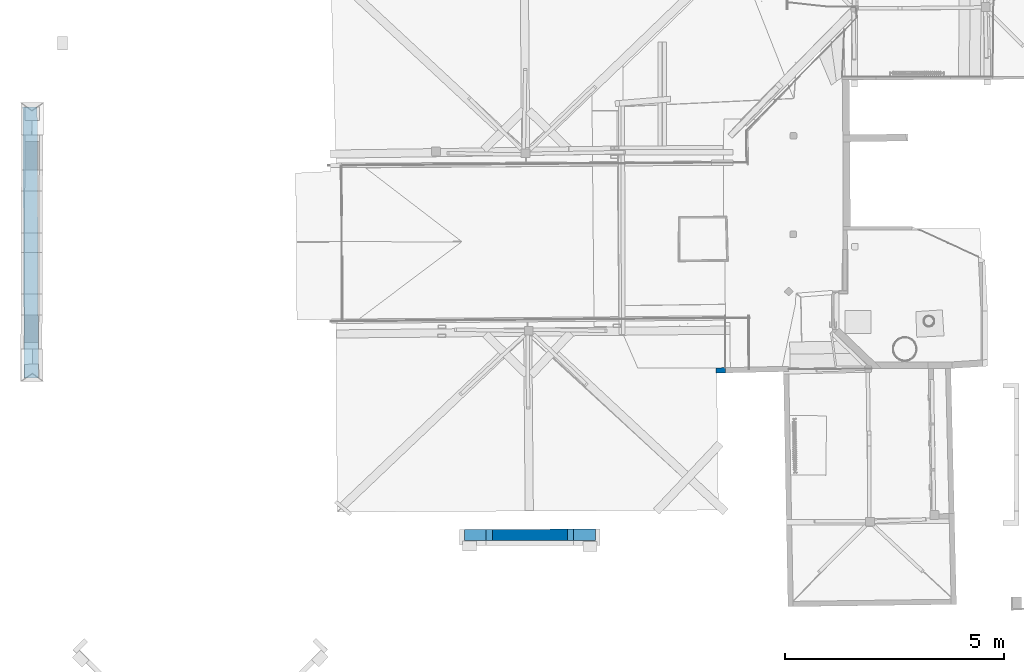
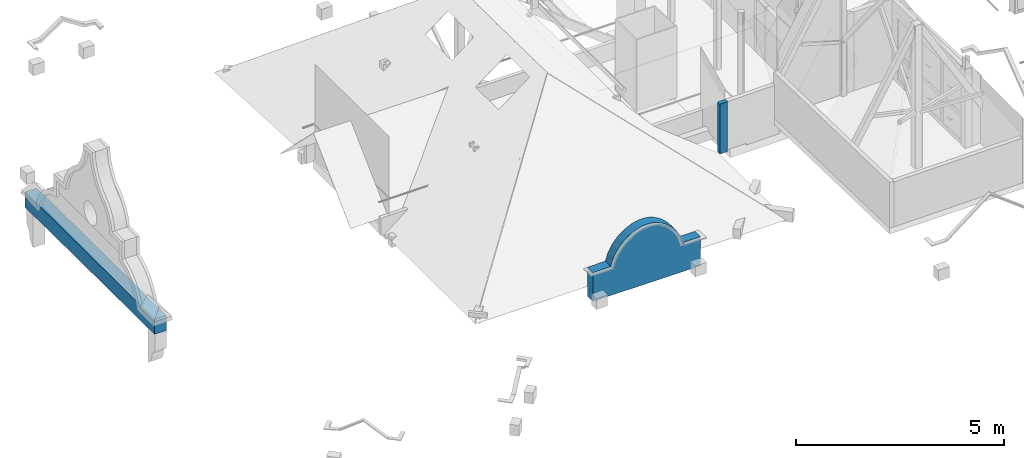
# One storey, part 7 of 39: 3 walls.
"""IFC2X3 building model written with IfcOpenShell, lengths in centimetres."""

from ifc_helpers import new_model, entity, si_unit, converted_unit, direction, frame, origin, origin_with_axes, origin_2d_with_axis, place, context, subcontext, project, spatial, polyline, rectangle, extrude, clip, bounded_halfspace, material, layer, layer_set, layer_usage, type_object, element, save


model = new_model("IFC2X3")

# Units and contexts
model_context = context("Model", 3, precision=0.0001, world=origin(), true_north=direction((0.225632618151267, 0.974212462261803, 0.0)))
body_context = subcontext(model_context, "Body", "Model", "MODEL_VIEW")
ifc_project = project(units=[si_unit("LENGTHUNIT", "METRE", prefix="CENTI"), si_unit("AREAUNIT", "SQUARE_METRE", prefix="CENTI"), si_unit("VOLUMEUNIT", "CUBIC_METRE", prefix="CENTI"), converted_unit("PLANEANGLEUNIT", "DEGREE", entity("IfcRatioMeasure", 0.0174532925), si_unit("PLANEANGLEUNIT", "RADIAN"), dimensions=[0, 0, 0, 0, 0, 0, 0])], contexts=[model_context])

# Site, building, storey
site_placement = place(None, origin_with_axes())
site = spatial("IfcSite", under=ifc_project, at=site_placement, Name="Default Site", CompositionType="ELEMENT")
building_placement = place(site_placement, origin_with_axes())
building = spatial("IfcBuilding", under=site, at=building_placement, Name="Default Building", CompositionType="ELEMENT")
storey_placement = place(building_placement, frame((0.0, 0.0, 1088.91037418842), z_axis=(0.0, 0.0, 1.0), x_axis=(1.0, 0.0, 0.0)))
storey = spatial("IfcBuildingStorey", under=building, at=storey_placement, Name="Mezzanine", CompositionType="ELEMENT", Elevation=1088.91037418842)

# Walls
ifc_material = material(Name="<aucun>")
ifc_layer_1 = layer(ifc_material, 26.0)
ifc_layer_set_1 = layer_set([ifc_layer_1], Name="default")
ifc_layer_usage_1 = layer_usage(ifc_layer_set_1, "AXIS2", "POSITIVE", -13.0)
wall_type_1 = type_object("IfcWallType", Name="default 260", PredefinedType="NOTDEFINED", material=ifc_layer_set_1)
wall_1_placement = place(storey_placement, frame((-356.975149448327, -732.422041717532, 1.59872115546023e-11), z_axis=(0.0, 0.0, 1.0), x_axis=(0.999999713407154, 0.000757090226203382, 0.0)))
solid_1 = clip(clip(clip(clip(clip(clip(clip(clip(extrude(rectangle(XDim=298.714882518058, YDim=25.9999999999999, at=origin_2d_with_axis()), frame((149.357441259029, -1.77635683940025e-13, 0.0), z_axis=(0.0, 0.0, 1.0), x_axis=(1.0, -1.35763796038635e-15, 0.0)), (0.0, 0.0, 1.0), 174.55720395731), bounded_halfspace(frame((49.5125697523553, 2.4247547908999, 85.4772075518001), z_axis=(0.01343457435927, -1.39015047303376e-17, -0.999909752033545), x_axis=(0.999899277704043, -0.00457716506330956, 0.0134344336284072)), True, frame((49.5125697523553, 2.4247547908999, 85.4772075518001), z_axis=(0.0, 0.0, 1.0), x_axis=(1.0, 0.0, 0.0)), polyline([(-49.5125697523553, 0.226650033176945), (4.44089209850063e-14, -8.88178419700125e-14), (-4.44089209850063e-14, 10.5752452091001), (-49.5125697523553, 10.5752452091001), (-49.5125697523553, 0.226650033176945)]))), bounded_halfspace(frame((49.5125697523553, -13.0, 85.4772075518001), z_axis=(0.01343457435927, -1.39015047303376e-17, -0.999909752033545), x_axis=(0.999909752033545, -1.03541307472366e-15, 0.0134345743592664)), True, frame((49.5125697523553, -13.0, 85.4772075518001), z_axis=(0.0, 0.0, 1.0), x_axis=(1.0, 0.0, 0.0)), polyline([(-49.5125697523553, 0.0), (0.0, 0.0), (-4.44089209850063e-14, 0.424597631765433), (-49.5125697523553, 0.651247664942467), (-49.5125697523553, 0.0)]))), bounded_halfspace(frame((49.5125697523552, -12.5754023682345, 85.4772075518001), z_axis=(0.01343457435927, -1.39015047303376e-17, -0.999909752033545), x_axis=(0.999899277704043, -0.00457716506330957, 0.0134344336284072)), True, frame((49.5125697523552, -12.5754023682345, 85.4772075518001), z_axis=(0.0, 0.0, 1.0), x_axis=(1.0, 0.0, 0.0)), polyline([(-49.5125697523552, 0.226650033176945), (4.44089209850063e-14, -8.88178419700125e-14), (8.88178419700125e-14, 15.0001571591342), (-49.5125697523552, 15.2268071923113), (-49.5125697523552, 0.226650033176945)]))), bounded_halfspace(frame((298.714882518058, -13.0000000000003, 86.1125640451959), z_axis=(0.0138037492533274, -1.46401174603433e-17, -0.99990472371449), x_axis=(0.999904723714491, -2.12980674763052e-15, 0.0138037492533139)), True, frame((298.714882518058, -13.0000000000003, 86.1125640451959), z_axis=(0.0, 0.0, 1.0), x_axis=(1.0, 0.0, 0.0)), polyline([(-49.5949635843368, 14.5110269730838), (-8.70009870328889, 14.3238255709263), (-8.76566782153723, 0.0), (8.88178419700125e-14, 0.0), (1.33226762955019e-13, 25.9999999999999), (-49.5949635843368, 26.0), (-49.5949635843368, 14.5110269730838)]))), bounded_halfspace(frame((56.4135383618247, 2.3931647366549, 107.470845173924), z_axis=(0.954134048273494, -5.29838759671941e-15, -0.299379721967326), x_axis=(0.29937944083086, -0.00137044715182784, 0.954133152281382)), True, frame((56.4135383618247, 2.3931647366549, 107.470845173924), z_axis=(0.0, 0.0, 1.0), x_axis=(1.0, 0.0, 0.0)), polyline([(-6.90096860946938, 0.0315900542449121), (4.44089209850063e-14, 0.0), (8.88178419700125e-14, 10.606835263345), (-6.90096860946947, 10.6068352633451), (-6.90096860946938, 0.0315900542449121)]))), bounded_halfspace(frame((67.5773140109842, 13.0, 127.637986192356), z_axis=(0.874896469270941, 2.24484059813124e-15, -0.484309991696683), x_axis=(-2.06779038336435e-15, -1.0, -1.67472841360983e-14)), True, frame((67.5773140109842, 13.0, 127.637986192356), z_axis=(0.0, 0.0, 1.0), x_axis=(1.0, 0.0, 0.0)), polyline([(-11.1637756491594, -10.6068352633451), (4.44089209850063e-14, -10.6579388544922), (4.44089209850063e-14, 8.88178419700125e-14), (-11.1637756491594, -8.88178419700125e-14), (-11.1637756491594, -10.6068352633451)]))), bounded_halfspace(frame((82.5520116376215, 12.9999999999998, 145.162309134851), z_axis=(0.760245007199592, -5.14887611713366e-16, -0.64963645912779), x_axis=(-0.649636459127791, 4.29474164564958e-15, -0.760245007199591)), True, frame((82.5520116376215, 12.9999999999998, 145.162309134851), z_axis=(0.0, 0.0, 1.0), x_axis=(1.0, 0.0, 0.0)), polyline([(-14.9746976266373, -10.657938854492), (4.44089209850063e-14, -10.7264874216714), (0.0, 0.0), (-14.9746976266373, 2.66453525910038e-13), (-14.9746976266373, -10.657938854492)]))), bounded_halfspace(frame((100.731488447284, 2.19029373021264, 159.334467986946), z_axis=(0.614820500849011, -1.94608868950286e-15, -0.788667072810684), x_axis=(0.788661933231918, -0.00361019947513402, 0.614816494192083)), True, frame((100.731488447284, 2.19029373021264, 159.334467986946), z_axis=(0.0, 0.0, 1.0), x_axis=(1.0, 0.0, 0.0)), polyline([(-18.1794768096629, 0.0832188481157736), (4.44089209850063e-14, 0.0), (4.44089209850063e-14, 10.8097062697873), (-18.1794768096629, 10.8097062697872), (-18.1794768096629, 0.0832188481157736)])))
solid_2 = clip(clip(clip(clip(clip(clip(clip(clip(solid_1, bounded_halfspace(frame((121.379879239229, 2.09577311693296, 169.580804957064), z_axis=(0.444509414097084, -8.9826149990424e-17, -0.895774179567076), x_axis=(-2.80808362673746e-15, -1.0, 0.0)), True, frame((121.379879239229, 2.09577311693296, 169.580804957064), z_axis=(0.0, 0.0, 1.0), x_axis=(1.0, 0.0, 0.0)), polyline([(-20.648390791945, 0.0945206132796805), (8.88178419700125e-14, 8.88178419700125e-14), (0.0, 10.9042268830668), (-20.648390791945, 10.904226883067), (-20.648390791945, 0.0945206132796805)]))), bounded_halfspace(frame((133.416902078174, 2.04067212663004, 172.967158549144), z_axis=(0.27081530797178, -2.03141540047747e-15, -0.962631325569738), x_axis=(1.06457811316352e-15, -1.0, 0.0)), True, frame((133.416902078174, 2.04067212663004, 172.967158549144), z_axis=(0.0, 0.0, 1.0), x_axis=(1.0, 0.0, 0.0)), polyline([(-12.0370228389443, 0.0551009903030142), (4.44089209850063e-14, 8.88178419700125e-14), (8.88178419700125e-14, 10.9593278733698), (-12.0370228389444, 10.9593278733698), (-12.0370228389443, 0.0551009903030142)]))), bounded_halfspace(frame((145.819686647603, 1.98389681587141, 174.55720395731), z_axis=(0.127159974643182, 4.50255609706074e-16, -0.991882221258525), x_axis=(-3.55477366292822e-15, -1.0, 0.0)), True, frame((145.819686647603, 1.98389681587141, 174.55720395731), z_axis=(0.0, 0.0, 1.0), x_axis=(1.0, 0.0, 0.0)), polyline([(-12.4027845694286, 0.0567753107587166), (4.44089209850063e-14, 0.0), (8.88178419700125e-14, 11.0161031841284), (-12.4027845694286, 11.0161031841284), (-12.4027845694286, 0.0567753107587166)]))), bounded_halfspace(frame((145.819686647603, 12.9999999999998, 174.55720395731), z_axis=(-0.0192283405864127, 1.03178777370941e-16, -0.999815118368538), x_axis=(-0.999815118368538, 5.36224710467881e-15, 0.0192283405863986)), True, frame((145.819686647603, 12.9999999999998, 174.55720395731), z_axis=(0.0, 0.0, 1.0), x_axis=(1.0, 0.0, 0.0)), polyline([(0.0, -11.0161031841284), (12.5019798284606, -11.0733325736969), (12.5019798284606, 8.88178419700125e-14), (4.44089209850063e-14, 0.0), (0.0, -11.0161031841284)]))), bounded_halfspace(frame((158.321666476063, 12.9999999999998, 174.31676717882), z_axis=(-0.165203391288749, -7.92009687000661e-17, -0.98625951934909), x_axis=(-0.986259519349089, -4.71302684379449e-16, 0.165203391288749)), True, frame((158.321666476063, 12.9999999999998, 174.31676717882), z_axis=(0.0, 0.0, 1.0), x_axis=(1.0, 0.0, 0.0)), polyline([(4.44089209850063e-14, -11.0733325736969), (12.3324766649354, -11.1297860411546), (12.3324766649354, -8.88178419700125e-14), (6.66133814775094e-14, 8.88178419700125e-14), (4.44089209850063e-14, -11.0733325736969)]))), bounded_halfspace(frame((170.654143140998, 12.9999999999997, 172.251015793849), z_axis=(-0.307627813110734, 8.88395260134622e-16, -0.951506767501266), x_axis=(4.36098639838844e-15, -1.0, 0.0)), True, frame((170.654143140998, 12.9999999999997, 172.251015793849), z_axis=(0.0, 0.0, 1.0), x_axis=(1.0, 0.0, 0.0)), polyline([(1.11022302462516e-13, -11.1297860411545), (11.8979181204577, -11.184250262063), (11.8979181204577, 0.0), (6.66133814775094e-14, 0.0), (1.11022302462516e-13, -11.1297860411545)]))), bounded_halfspace(frame((182.552061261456, 12.9999999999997, 168.404347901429), z_axis=(-0.486677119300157, 5.40962673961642e-16, -0.873581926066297), x_axis=(-0.873581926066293, 9.70360944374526e-16, 0.486677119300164)), True, frame((182.552061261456, 12.9999999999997, 168.404347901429), z_axis=(0.0, 0.0, 1.0), x_axis=(1.0, 0.0, 0.0)), polyline([(2.22044604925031e-14, -11.184250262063), (19.2988362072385, -11.2725931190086), (19.2988362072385, -8.88178419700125e-14), (6.66133814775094e-14, 0.0), (2.22044604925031e-14, -11.184250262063)]))), bounded_halfspace(frame((201.850897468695, 12.9999999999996, 157.652864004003), z_axis=(-0.645351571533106, -3.47703636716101e-16, -0.763885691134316), x_axis=(5.89914402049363e-16, -1.0, 0.0)), True, frame((201.850897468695, 12.9999999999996, 157.652864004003), z_axis=(0.0, 0.0, 1.0), x_axis=(1.0, 0.0, 0.0)), polyline([(8.88178419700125e-14, -11.2725931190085), (16.8754691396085, -11.3498427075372), (16.8754691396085, 0.0), (8.88178419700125e-14, 0.0), (8.88178419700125e-14, -11.2725931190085)])))
solid_3 = clip(clip(clip(clip(clip(clip(clip(clip(solid_2, bounded_halfspace(frame((218.726366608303, 12.9999999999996, 143.396005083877), z_axis=(-0.780011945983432, 1.88824650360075e-15, -0.625764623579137), x_axis=(-1.70599211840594e-15, -1.0, 0.0)), True, frame((218.726366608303, 12.9999999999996, 143.396005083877), z_axis=(0.0, 0.0, 1.0), x_axis=(1.0, 0.0, 0.0)), polyline([(4.44089209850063e-14, -11.3498427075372), (13.8241515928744, -11.413124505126), (13.8241515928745, 0.0), (8.88178419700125e-14, 0.0), (4.44089209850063e-14, -11.3498427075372)]))), bounded_halfspace(frame((232.550518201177, 1.58687549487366, 126.164280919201), z_axis=(-0.885647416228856, 3.7992612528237e-15, -0.464358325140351), x_axis=(0.464357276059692, -0.00212565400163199, -0.885645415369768)), True, frame((232.550518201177, 1.58687549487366, 126.164280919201), z_axis=(0.0, 0.0, 1.0), x_axis=(1.0, 0.0, 0.0)), polyline([(8.88178419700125e-14, 0.0), (10.2584256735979, -0.0469592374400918), (10.2584256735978, 11.413124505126), (1.77635683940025e-13, 11.413124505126), (8.88178419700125e-14, 0.0)]))), bounded_halfspace(frame((242.808943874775, 12.9999999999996, 106.598898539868), z_axis=(-0.958327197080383, -1.77126108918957e-15, -0.285672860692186), x_axis=(1.48134542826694e-15, -1.0, 0.0)), True, frame((242.808943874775, 12.9999999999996, 106.598898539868), z_axis=(0.0, 0.0, 1.0), x_axis=(1.0, 0.0, 0.0)), polyline([(1.33226762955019e-13, -11.4600837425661), (6.31097505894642, -11.4889730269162), (6.31097505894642, 0.0), (8.88178419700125e-14, 0.0), (1.33226762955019e-13, -11.4600837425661)]))), bounded_halfspace(frame((56.4135383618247, -13.0, 107.470845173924), z_axis=(0.954134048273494, -5.29838759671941e-15, -0.299379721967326), x_axis=(0.299379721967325, 2.19214837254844e-15, 0.954134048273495)), True, frame((56.4135383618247, -13.0, 107.470845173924), z_axis=(0.0, 0.0, 1.0), x_axis=(1.0, 0.0, 0.0)), polyline([(-6.90096860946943, 0.0), (4.44089209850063e-14, 0.0), (0.0, 0.39300757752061), (-6.90096860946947, 0.424597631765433), (-6.90096860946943, 0.0)]))), bounded_halfspace(frame((67.5773140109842, -13.0, 127.637986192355), z_axis=(0.874896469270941, 2.24484059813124e-15, -0.484309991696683), x_axis=(0.484309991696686, -2.61048778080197e-15, 0.87489646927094)), True, frame((67.5773140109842, -13.0, 127.637986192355), z_axis=(0.0, 0.0, 1.0), x_axis=(1.0, 0.0, 0.0)), polyline([(-11.1637756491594, 0.0), (4.44089209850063e-14, 0.0), (-8.88178419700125e-14, 0.341903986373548), (-11.1637756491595, 0.39300757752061), (-11.1637756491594, 0.0)]))), bounded_halfspace(frame((82.5520116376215, -13.0, 145.162309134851), z_axis=(0.760245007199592, -5.14887611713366e-16, -0.64963645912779), x_axis=(0.64963645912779, -4.40077661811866e-16, 0.760245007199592)), True, frame((82.5520116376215, -13.0, 145.162309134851), z_axis=(0.0, 0.0, 1.0), x_axis=(1.0, 0.0, 0.0)), polyline([(-14.9746976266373, 0.0), (4.44089209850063e-14, 0.0), (-4.44089209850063e-14, 0.273355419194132), (-14.9746976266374, 0.341903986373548), (-14.9746976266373, 0.0)]))), bounded_halfspace(frame((100.731488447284, -12.8098634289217, 159.334467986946), z_axis=(0.614820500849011, -1.94608868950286e-15, -0.788667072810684), x_axis=(-0.788661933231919, 0.00361019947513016, -0.614816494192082)), True, frame((100.731488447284, -12.8098634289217, 159.334467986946), z_axis=(0.0, 0.0, 1.0), x_axis=(1.0, 0.0, 0.0)), polyline([(-18.1794768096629, -0.19013657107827), (-4.44089209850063e-14, -0.190136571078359), (4.44089209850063e-14, 0.0), (-18.1794768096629, 0.0832188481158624), (-18.1794768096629, -0.19013657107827)]))), bounded_halfspace(frame((121.379879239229, -12.9043840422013, 169.580804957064), z_axis=(0.444509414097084, -8.9826149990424e-17, -0.895774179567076), x_axis=(-0.895766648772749, 0.00410048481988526, -0.44450567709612)), True, frame((121.379879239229, -12.9043840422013, 169.580804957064), z_axis=(0.0, 0.0, 1.0), x_axis=(1.0, 0.0, 0.0)), polyline([(-20.648390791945, -0.095615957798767), (4.44089209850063e-14, -0.095615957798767), (8.88178419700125e-14, 8.88178419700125e-14), (-20.6483907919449, 0.0945206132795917), (-20.648390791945, -0.095615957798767)])))
solid_4 = clip(clip(clip(clip(clip(clip(clip(clip(solid_3, bounded_halfspace(frame((133.416902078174, -12.9594850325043, 172.967158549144), z_axis=(0.27081530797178, -2.03141540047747e-15, -0.962631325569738), x_axis=(-0.962621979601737, 0.00440652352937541, -0.27081267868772)), True, frame((133.416902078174, -12.9594850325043, 172.967158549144), z_axis=(0.0, 0.0, 1.0), x_axis=(1.0, 0.0, 0.0)), polyline([(-12.0370228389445, -0.0405149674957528), (0.0, -0.0405149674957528), (4.44089209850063e-14, 0.0), (-12.0370228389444, 0.055100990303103), (-12.0370228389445, -0.0405149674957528)]))), bounded_halfspace(frame((142.267552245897, -13.0000000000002, 174.101817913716), z_axis=(0.127159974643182, 4.50255609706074e-16, -0.991882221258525), x_axis=(-5.28990588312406e-13, -1.0, 0.0)), True, frame((142.267552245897, -13.0000000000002, 174.101817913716), z_axis=(0.0, 0.0, 1.0), x_axis=(1.0, 0.0, 0.0)), polyline([(-8.85065016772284, 8.88178419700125e-14), (4.44089209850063e-14, 0.0), (-8.8506501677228, 0.0405149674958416), (-8.85065016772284, 8.88178419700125e-14)]))), bounded_halfspace(frame((290.014783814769, 1.32382557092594, 85.9924586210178), z_axis=(0.0138037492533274, -1.46401174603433e-17, -0.99990472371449), x_axis=(-0.999894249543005, 0.00457714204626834, -0.0138036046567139)), True, frame((290.014783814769, 1.32382557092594, 85.9924586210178), z_axis=(0.0, 0.0, 1.0), x_axis=(1.0, 0.0, 0.0)), polyline([(-40.8948648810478, -14.3238255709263), (-0.0655691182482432, -14.3238255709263), (8.88178419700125e-14, 0.0), (-40.8948648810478, 0.187201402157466), (-40.8948648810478, -14.3238255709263)]))), bounded_halfspace(frame((56.4135383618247, -12.6069924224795, 107.470845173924), z_axis=(0.954134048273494, -5.29838759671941e-15, -0.299379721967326), x_axis=(0.299379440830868, -0.00137044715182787, 0.954133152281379)), True, frame((56.4135383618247, -12.6069924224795, 107.470845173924), z_axis=(0.0, 0.0, 1.0), x_axis=(1.0, 0.0, 0.0)), polyline([(-6.90096860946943, 0.0315900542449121), (4.44089209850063e-14, 0.0), (8.88178419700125e-14, 15.0001571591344), (-6.90096860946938, 15.0317472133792), (-6.90096860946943, 0.0315900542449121)]))), bounded_halfspace(frame((67.5773140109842, 2.34206114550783, 127.637986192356), z_axis=(0.874896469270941, 2.24484059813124e-15, -0.484309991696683), x_axis=(-1.89984746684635e-15, -1.0, 0.0)), True, frame((67.5773140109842, 2.34206114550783, 127.637986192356), z_axis=(0.0, 0.0, 1.0), x_axis=(1.0, 0.0, 0.0)), polyline([(-11.1637756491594, -14.9490535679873), (0.0, -15.0001571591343), (4.44089209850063e-14, 0.0), (-11.1637756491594, 0.0511035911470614), (-11.1637756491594, -14.9490535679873)]))), bounded_halfspace(frame((82.5520116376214, -12.7266445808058, 145.162309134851), z_axis=(0.760245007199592, -5.14887611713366e-16, -0.64963645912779), x_axis=(0.649633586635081, -0.00297377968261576, 0.760241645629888)), True, frame((82.5520116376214, -12.7266445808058, 145.162309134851), z_axis=(0.0, 0.0, 1.0), x_axis=(1.0, 0.0, 0.0)), polyline([(-14.9746976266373, 0.0685485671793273), (0.0, 0.0), (1.33226762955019e-13, 15.0001571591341), (-14.9746976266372, 15.0687057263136), (-14.9746976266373, 0.0685485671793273)]))), bounded_halfspace(frame((100.731488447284, -12.8098634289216, 159.334467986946), z_axis=(0.614820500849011, -1.94608868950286e-15, -0.788667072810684), x_axis=(0.788661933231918, -0.00361019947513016, 0.614816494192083)), True, frame((100.731488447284, -12.8098634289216, 159.334467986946), z_axis=(0.0, 0.0, 1.0), x_axis=(1.0, 0.0, 0.0)), polyline([(-18.1794768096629, 0.0832188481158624), (4.44089209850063e-14, 0.0), (8.88178419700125e-14, 15.0001571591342), (-18.1794768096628, 15.08337600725), (-18.1794768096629, 0.0832188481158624)]))), bounded_halfspace(frame((121.379879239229, -12.9043840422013, 169.580804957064), z_axis=(0.444509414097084, -8.9826149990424e-17, -0.895774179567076), x_axis=(0.895766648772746, -0.0041004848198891, 0.444505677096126)), True, frame((121.379879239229, -12.9043840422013, 169.580804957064), z_axis=(0.0, 0.0, 1.0), x_axis=(1.0, 0.0, 0.0)), polyline([(-20.6483907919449, 0.0945206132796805), (4.44089209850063e-14, 8.88178419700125e-14), (4.44089209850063e-14, 15.0001571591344), (-20.6483907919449, 15.0946777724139), (-20.6483907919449, 0.0945206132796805)])))
solid_5 = clip(clip(clip(clip(clip(clip(clip(clip(solid_4, bounded_halfspace(frame((133.416902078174, -12.9594850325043, 172.967158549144), z_axis=(0.27081530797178, -2.03141540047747e-15, -0.962631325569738), x_axis=(0.962621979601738, -0.00440652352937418, 0.270812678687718)), True, frame((133.416902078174, -12.9594850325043, 172.967158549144), z_axis=(0.0, 0.0, 1.0), x_axis=(1.0, 0.0, 0.0)), polyline([(-12.0370228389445, 0.055100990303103), (8.88178419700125e-14, 0.0), (8.88178419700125e-14, 15.0001571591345), (-12.0370228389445, 15.0552581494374), (-12.0370228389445, 0.055100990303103)]))), bounded_halfspace(frame((145.819686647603, 1.98389681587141, 174.55720395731), z_axis=(0.127159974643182, 4.50255609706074e-16, -0.991882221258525), x_axis=(-0.991871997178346, 0.00454041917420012, -0.127158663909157)), True, frame((145.819686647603, 1.98389681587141, 174.55720395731), z_axis=(0.0, 0.0, 1.0), x_axis=(1.0, 0.0, 0.0)), polyline([(-12.4027845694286, -14.9433818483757), (-3.55213440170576, -14.9838968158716), (4.44089209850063e-14, -14.9838968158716), (4.44089209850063e-14, 0.0), (-12.4027845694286, 0.0567753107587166), (-12.4027845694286, -14.9433818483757)]))), bounded_halfspace(frame((145.819686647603, -13.0000000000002, 174.55720395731), z_axis=(-0.0192283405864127, 1.03178777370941e-16, -0.999815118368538), x_axis=(0.999815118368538, 1.73667503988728e-15, -0.0192283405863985)), True, frame((145.819686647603, -13.0000000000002, 174.55720395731), z_axis=(0.0, 0.0, 1.0), x_axis=(1.0, 0.0, 0.0)), polyline([(4.44089209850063e-14, 0.0), (12.5019798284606, 8.88178419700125e-14), (12.5019798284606, 14.926667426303), (4.44089209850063e-14, 14.9838968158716), (4.44089209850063e-14, 0.0)]))), bounded_halfspace(frame((158.321666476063, -13.0000000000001, 174.31676717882), z_axis=(-0.165203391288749, -7.92009687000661e-17, -0.98625951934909), x_axis=(0.986259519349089, 4.74013189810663e-16, -0.165203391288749)), True, frame((158.321666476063, -13.0000000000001, 174.31676717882), z_axis=(0.0, 0.0, 1.0), x_axis=(1.0, 0.0, 0.0)), polyline([(6.66133814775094e-14, 0.0), (12.3324766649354, -1.77635683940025e-13), (12.3324766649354, 14.8702139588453), (4.44089209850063e-14, 14.9266674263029), (6.66133814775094e-14, 0.0)]))), bounded_halfspace(frame((170.654143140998, 1.87021395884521, 172.251015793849), z_axis=(-0.307627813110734, 8.88395260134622e-16, -0.951506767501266), x_axis=(-0.95149774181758, 0.00435560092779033, 0.307624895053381)), True, frame((170.654143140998, 1.87021395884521, 172.251015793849), z_axis=(0.0, 0.0, 1.0), x_axis=(1.0, 0.0, 0.0)), polyline([(6.66133814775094e-14, -14.8702139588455), (11.8979181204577, -14.8702139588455), (11.8979181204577, -0.0544642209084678), (6.66133814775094e-14, 0.0), (6.66133814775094e-14, -14.8702139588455)]))), bounded_halfspace(frame((182.552061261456, 1.81574973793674, 168.404347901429), z_axis=(-0.486677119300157, 5.40962673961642e-16, -0.873581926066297), x_axis=(-0.873574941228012, 0.00399889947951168, 0.486673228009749)), True, frame((182.552061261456, 1.81574973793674, 168.404347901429), z_axis=(0.0, 0.0, 1.0), x_axis=(1.0, 0.0, 0.0)), polyline([(4.44089209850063e-14, -14.815749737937), (19.2988362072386, -14.8157497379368), (19.2988362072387, -0.0883428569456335), (6.66133814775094e-14, 0.0), (4.44089209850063e-14, -14.815749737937)]))), bounded_halfspace(frame((201.850897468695, 1.72740688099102, 157.652864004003), z_axis=(-0.645351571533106, -3.47703636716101e-16, -0.763885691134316), x_axis=(-0.763881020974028, 0.00349676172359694, 0.645347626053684)), True, frame((201.850897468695, 1.72740688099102, 157.652864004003), z_axis=(0.0, 0.0, 1.0), x_axis=(1.0, 0.0, 0.0)), polyline([(0.0, -14.7274068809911), (16.8754691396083, -14.7274068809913), (16.8754691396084, -0.0772495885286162), (8.88178419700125e-14, 8.88178419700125e-14), (0.0, -14.7274068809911)]))), bounded_halfspace(frame((218.726366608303, 1.65015729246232, 143.396005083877), z_axis=(-0.780011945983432, 1.88824650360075e-15, -0.625764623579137), x_axis=(-0.625762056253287, 0.00286450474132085, 0.780008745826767)), True, frame((218.726366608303, 1.65015729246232, 143.396005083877), z_axis=(0.0, 0.0, 1.0), x_axis=(1.0, 0.0, 0.0)), polyline([(-4.44089209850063e-14, -14.6501572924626), (13.8241515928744, -14.6501572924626), (13.8241515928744, -0.0632817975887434), (4.44089209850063e-14, 8.88178419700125e-14), (-4.44089209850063e-14, -14.6501572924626)])))
element("IfcWallStandardCase", 1, at=wall_1_placement, inside=storey, type_object=wall_type_1, material=ifc_layer_usage_1, Name="Enveloppe 1015988", context=body_context, shape_type="Clipping", body=[
    clip(clip(solid_5, bounded_halfspace(frame((232.550518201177, 1.58687549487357, 126.164280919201), z_axis=(-0.885647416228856, 3.7992612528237e-15, -0.464358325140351), x_axis=(0.464358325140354, 2.02848805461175e-15, -0.885647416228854)), True, frame((232.550518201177, 1.58687549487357, 126.164280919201), z_axis=(0.0, 0.0, 1.0), x_axis=(1.0, 0.0, 0.0)), polyline([(0.0, -14.5868754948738), (10.2584256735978, -14.5868754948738), (10.2584256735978, -0.046959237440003), (8.88178419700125e-14, 0.0), (0.0, -14.5868754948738)]))), bounded_halfspace(frame((242.808943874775, -13.0000000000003, 106.598898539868), z_axis=(-0.958327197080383, -1.77126108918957e-15, -0.285672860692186), x_axis=(-0.28567261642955, 0.00130770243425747, 0.958326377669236)), True, frame((242.808943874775, -13.0000000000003, 106.598898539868), z_axis=(0.0, 0.0, 1.0), x_axis=(1.0, 0.0, 0.0)), polyline([(8.88178419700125e-14, 0.0), (6.31097505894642, -8.88178419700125e-14), (6.31097505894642, 14.5110269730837), (8.88178419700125e-14, 14.5399162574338), (8.88178419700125e-14, 0.0)]))),
])
ifc_layer_2 = layer(ifc_material, 12.0)
ifc_layer_set_2 = layer_set([ifc_layer_2], Name="default")
ifc_layer_usage_2 = layer_usage(ifc_layer_set_2, "AXIS2", "POSITIVE", -6.0)
wall_type_2 = type_object("IfcWallType", Name="default 120", PredefinedType="NOTDEFINED", material=ifc_layer_set_2)
wall_2_placement = place(storey_placement, frame((216.946357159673, -356.870165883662, 4.79616346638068e-12), z_axis=(0.0, 0.0, 1.0), x_axis=(0.999756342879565, 0.0220738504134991, 0.0)))
element("IfcWallStandardCase", 2, at=wall_2_placement, inside=storey, type_object=wall_type_2, material=ifc_layer_usage_2, Name="Enveloppe 2030007", context=body_context, shape_type="Clipping", body=[
    clip(extrude(rectangle(XDim=22.1076301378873, YDim=12.0, at=origin_2d_with_axis()), frame((11.0538150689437, 0.0, -5.86197757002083e-12), z_axis=(0.0, 0.0, 1.0), x_axis=(1.0, 1.12757025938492e-15, 0.0)), (0.0, 0.0, 1.0), 146.702416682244), bounded_halfspace(frame((22.1076301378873, 5.99999999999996, 44.3096258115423), z_axis=(0.0, 0.0, 1.0), x_axis=(-3.70189989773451e-15, -1.0, 0.0)), True, frame((22.1076301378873, 5.99999999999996, 44.3096258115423), z_axis=(0.0, 0.0, 1.0), x_axis=(1.0, 0.0, 0.0)), polyline([(-0.107258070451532, -11.9999999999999), (-0.107258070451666, -4.44089209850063e-14), (0.0, 0.0), (-4.44089209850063e-14, -12.0), (-0.107258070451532, -11.9999999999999)]))),
])
ifc_layer_3 = layer(ifc_material, 33.0)
ifc_layer_set_3 = layer_set([ifc_layer_3], Name="default")
ifc_layer_usage_3 = layer_usage(ifc_layer_set_3, "AXIS2", "POSITIVE", -16.5)
wall_type_3 = type_object("IfcWallType", Name="default 330", PredefinedType="NOTDEFINED", material=ifc_layer_set_3)
wall_3_placement = place(storey_placement, frame((-1345.77246050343, -374.209519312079, 30.0616258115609), z_axis=(0.0, 0.0, 1.0), x_axis=(-0.00503871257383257, 0.999987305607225, 0.0)))
element("IfcWallStandardCase", 3, at=wall_3_placement, inside=storey, type_object=wall_type_3, material=ifc_layer_usage_3, Name="Enveloppe 783922", context=body_context, shape_type="SweptSolid", body=[
    extrude(rectangle(XDim=33.0, YDim=619.32026883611, at=origin_2d_with_axis()), frame((309.660134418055, 1.77635683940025e-13, -1.77635683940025e-13), z_axis=(0.0, 0.0, 1.0), x_axis=(0.0, -1.0, 0.0)), (0.0, 0.0, 1.0), 44.9999999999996),
])

save(model, "model.ifc")
